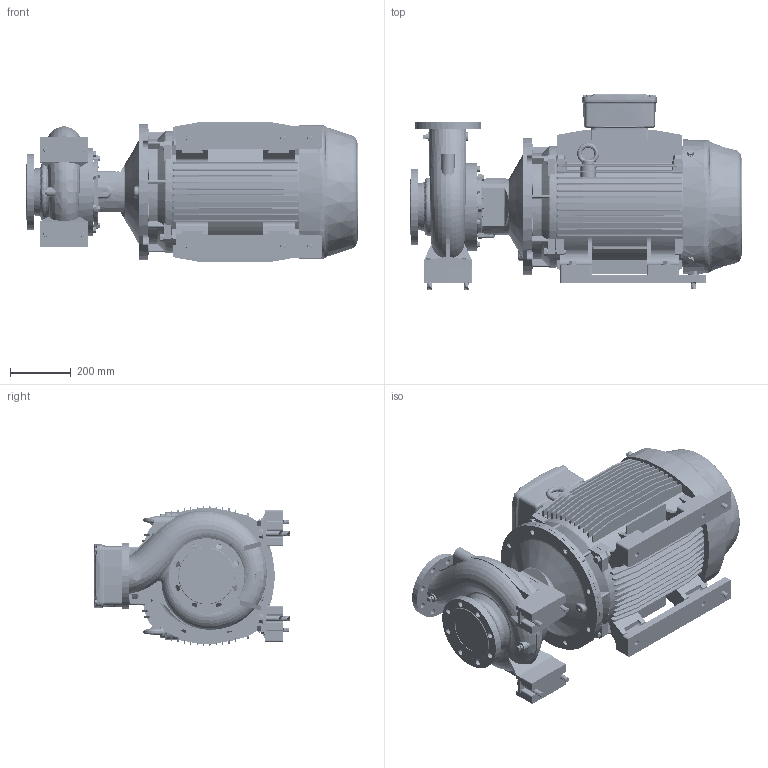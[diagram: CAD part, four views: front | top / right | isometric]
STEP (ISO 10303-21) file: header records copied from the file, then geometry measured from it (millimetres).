
FILE_DESCRIPTION (( 'STEP AP214' ), '1' );
FILE_NAME ('GSD2 100-200_45_(225SM)_W21.STEP', '2026-07-08T02:19:19', ( '' ), ( '' ), 'SwSTEP 2.0', 'SolidWorks 2024', '' );
FILE_SCHEMA (( 'AUTOMOTIVE_DESIGN' ));
Length unit declared in the file: millimetre
Products named in the file (10): Parametric Flat Washer_M16; Parametric bolt and washer_SFT-A377B; 225S_M2P IE3_W21T_B35; 80x25 -CGSDA-5281 (225) (Offset); Parametric bolt and washer_SFT-A359B; Parametric bolt_SFT-A377B; CGS11-5321_2_3_4_5_CGS11-5322; GSD2  100-200_45_(225SM)_W21; 100-200-225S_M_ﾃﾞﾌｫﾙﾄ; Parametric bolt_SFT-A359B
Assembly tree (22 placements, depth 3):
  GSD2  100-200_45_(225SM)_W21
    100-200-225S_M_ﾃﾞﾌｫﾙﾄ
    225S_M2P IE3_W21T_B35
    CGS11-5321_2_3_4_5_CGS11-5322  x4
    Parametric bolt and washer_SFT-A377B  x4
      Parametric bolt_SFT-A377B
      Parametric Flat Washer_M16
    Parametric bolt and washer_SFT-A359B  x6
      Parametric bolt_SFT-A359B
      Parametric Flat Washer_M16
    80x25 -CGSDA-5281 (225) (Offset)  x2
Bounding box: 1094.5 x 649 x 459.72 mm (x, y, z)
Volume: 129025615.1 mm3; surface area: 4545271.6 mm2
Topology: 30 solids, 35 shells, 4110 faces, 10902 edges, 6977 vertices
Faces by surface type: plane 1667, cylinder 1439, cone 456, bspline 268, torus 265, sphere 15
Entity records: 165172 total; most frequent: CARTESIAN_POINT 82169, ORIENTED_EDGE 18186, DIRECTION 16522, EDGE_CURVE 9093, AXIS2_PLACEMENT_3D 6038, VERTEX_POINT 5799, VECTOR 4446, LINE 4446
